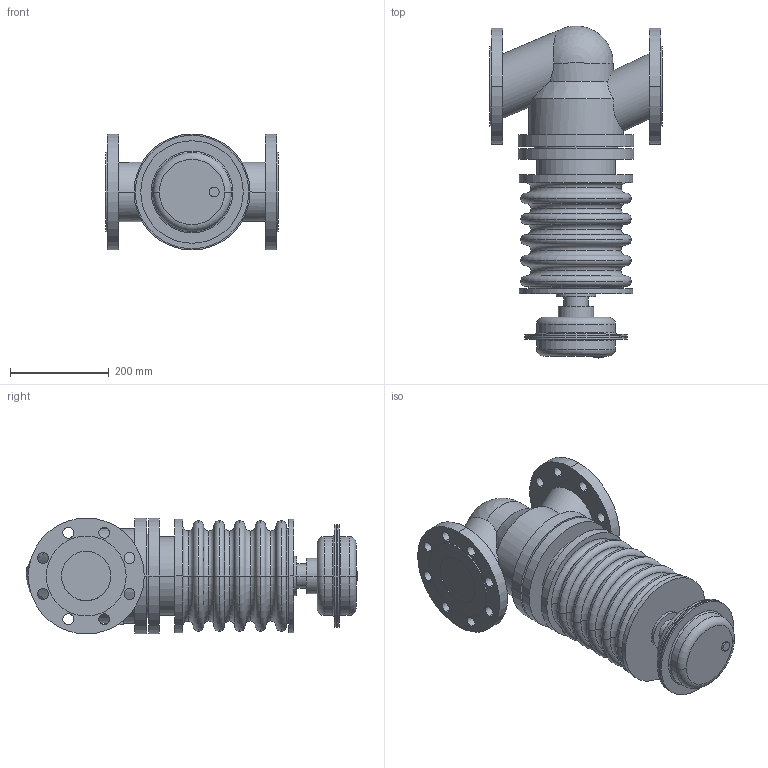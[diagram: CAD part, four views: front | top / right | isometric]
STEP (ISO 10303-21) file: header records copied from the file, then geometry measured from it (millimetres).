
FILE_DESCRIPTION(('OneSpaceDesigner STEP Export'),'2;1');
FILE_NAME('c000000574.stp','2006-08-30T 9:46:43',(''),(''),'OneSpace Designer STEP processor for AP203 (Solid Model)','OneSpace Designer 13.20A 18-Aug-2005 (C) CoCreate Software GmbH','');
FILE_SCHEMA(('CONFIG_CONTROL_DESIGN'));
Length unit declared in the file: millimetre
Products named in the file (1): 2
Bounding box: 350 x 673.15 x 235 mm (x, y, z)
Volume: 20856211 mm3; surface area: 919137.9 mm2
Topology: 1 solids, 1 shells, 176 faces, 414 edges, 263 vertices
Faces by surface type: cylinder 82, torus 50, plane 40, cone 2, sphere 2
Entity records: 4587 total; most frequent: CARTESIAN_POINT 952, ORIENTED_EDGE 824, DIRECTION 639, EDGE_CURVE 412, VERTEX_POINT 263, AXIS2_PLACEMENT_3D 262, EDGE_LOOP 233, FACE_OUTER_BOUND 176
